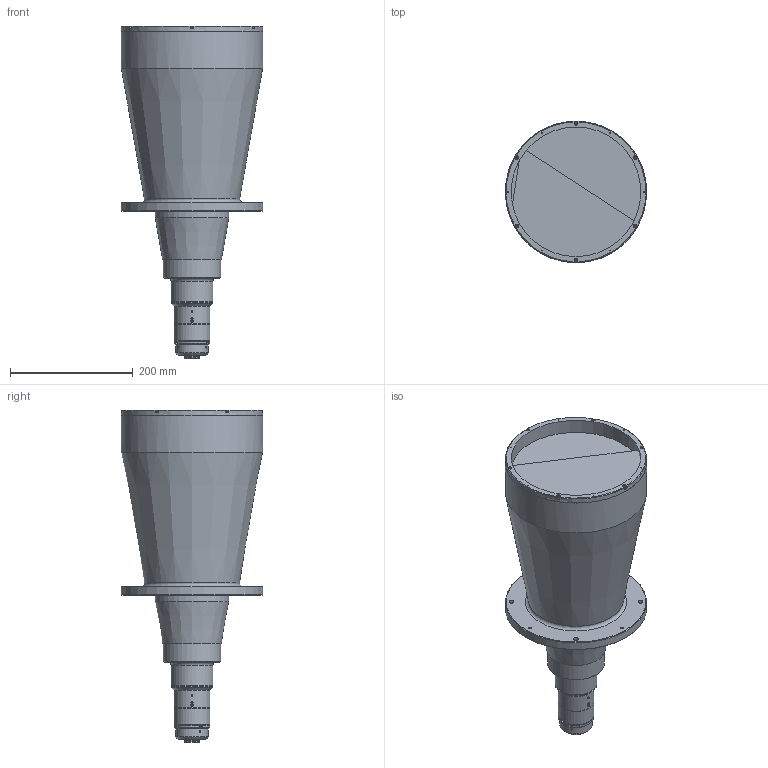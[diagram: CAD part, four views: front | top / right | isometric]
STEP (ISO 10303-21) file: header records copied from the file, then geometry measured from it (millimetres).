
FILE_DESCRIPTION (( 'STEP AP203' ), '1' );
FILE_NAME ('3d_mtl-19518c-009_a002.STEP', '2017-06-16T02:37:11', ( '' ), ( '' ), 'SwSTEP 2.0', 'SolidWorks 2014', '' );
FILE_SCHEMA (( 'CONFIG_CONTROL_DESIGN' ));
Length unit declared in the file: millimetre
Products named in the file (1): 3d_mtl-19518c-009_a002
Bounding box: 230 x 230 x 540.61 mm (x, y, z)
Volume: 10315091.8 mm3; surface area: 379877.4 mm2
Topology: 1 solids, 9 shells, 786 faces, 1809 edges, 1099 vertices
Faces by surface type: plane 478, cone 182, cylinder 87, torus 31, sphere 8
Full cylindrical faces by diameter (mm): 1.5 x6, 1.6 x4, 2.5 x3, 3.2 x4, 3.5 x8, 3.8 x3, 5 x4, 5.5 x6, 7 x4, 8 x8, 22.5 x1, 24.7 x1, 25.4 x1, 29 x1, 33.2 x1, 37 x1, 38 x2, 42 x1, 44 x1, 45 x1, 53 x1, 57 x1, 58 x3, 65.834 x1, 68 x2, 84.5 x1, 93 x1, 120 x1, 211 x1, 229.8 x1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
Entity records: 21327 total; most frequent: CARTESIAN_POINT 4624, DIRECTION 3598, ORIENTED_EDGE 3084, EDGE_CURVE 1542, AXIS2_PLACEMENT_3D 1443, EDGE_LOOP 1063, VERTEX_POINT 1021, FACE_OUTER_BOUND 900
